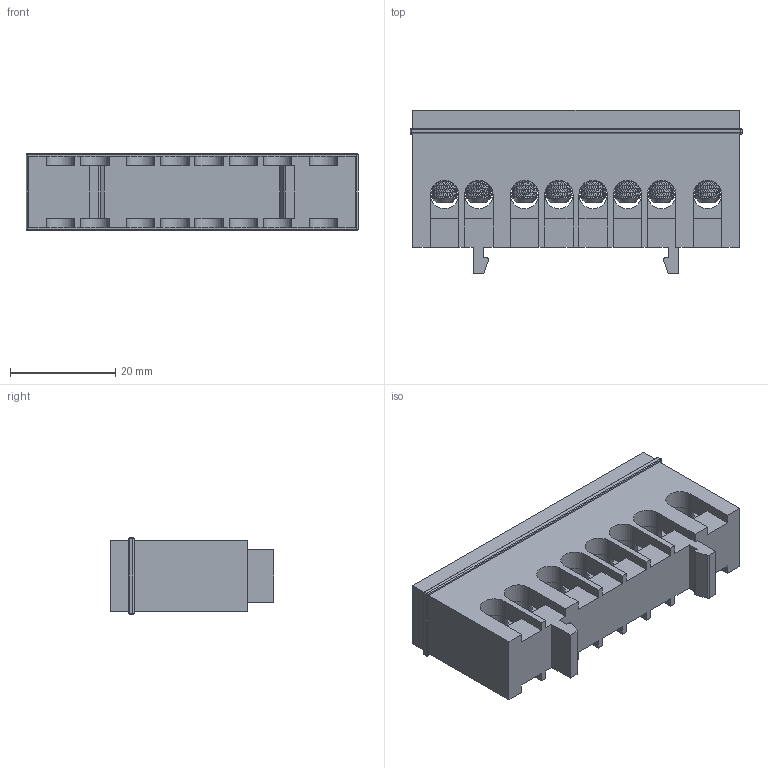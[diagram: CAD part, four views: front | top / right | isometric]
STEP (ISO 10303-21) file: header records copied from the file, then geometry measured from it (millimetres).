
FILE_DESCRIPTION (( 'STEP AP214' ), '1' );
FILE_NAME ('Øèíà íóëåâàÿ â èçîëÿöèè 6õ9 8.STEP', '2020-02-06T11:11:02', ( '' ), ( '' ), 'SwSTEP 2.0', 'SolidWorks 2018', '' );
FILE_SCHEMA (( 'AUTOMOTIVE_DESIGN' ));
Length unit declared in the file: millimetre
Products named in the file (4): Âèíò ì5; Øèíà íóëåâàÿ 6õ9 8; Èçîëÿöèÿ äëÿ øèíû íóëåâîé 6õ9 8; Øèíà íóëåâàÿ â èçîëÿöèè 6õ9 8
Assembly tree (10 placements, depth 2):
  Øèíà íóëåâàÿ â èçîëÿöèè 6õ9 8
    Èçîëÿöèÿ äëÿ øèíû íóëåâîé 6õ9 8
    Øèíà íóëåâàÿ 6õ9 8
    Âèíò ì5  x8
Bounding box: 63 x 31 x 14.5 mm (x, y, z)
Volume: 16152.7 mm3; surface area: 14152.1 mm2
Topology: 10 solids, 10 shells, 789 faces, 2295 edges, 1474 vertices
Faces by surface type: plane 316, cylinder 305, cone 80, torus 56, bspline 24, sphere 8
Entity records: 11856 total; most frequent: CARTESIAN_POINT 4218, ORIENTED_EDGE 1630, DIRECTION 1438, EDGE_CURVE 815, VECTOR 524, LINE 524, VERTEX_POINT 522, AXIS2_PLACEMENT_3D 457
